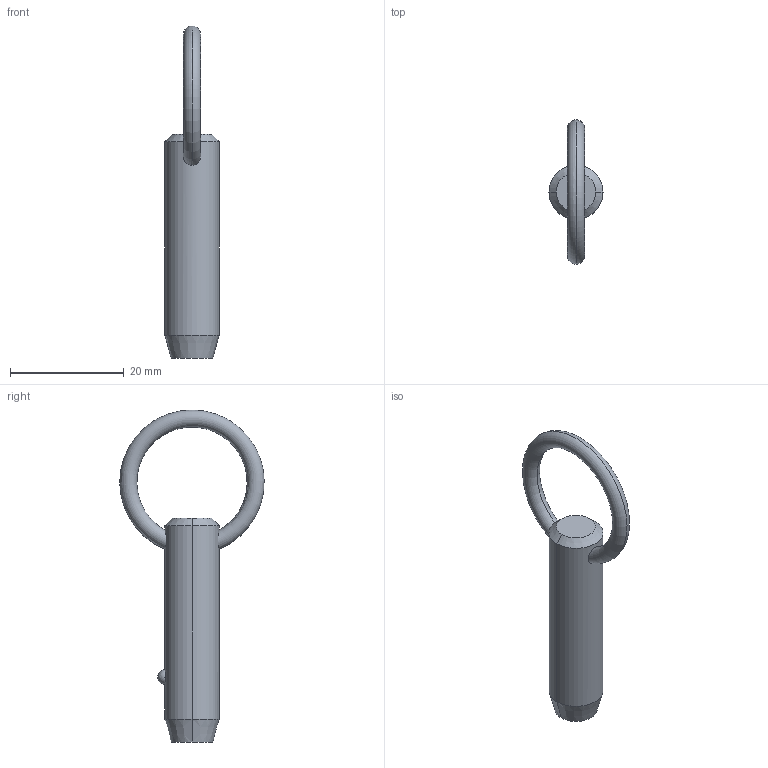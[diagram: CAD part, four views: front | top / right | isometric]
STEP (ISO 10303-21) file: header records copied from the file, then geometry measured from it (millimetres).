
FILE_DESCRIPTION (( 'STEP AP203' ), '1' );
FILE_NAME ('P1250.037-080.step', '2019-07-29T19:58:38', ( '' ), ( '' ), 'SwSTEP 2.0', 'SolidWorks 2017', '' );
FILE_SCHEMA (( 'CONFIG_CONTROL_DESIGN' ));
Length unit declared in the file: millimetre
Products named in the file (1): P1250.037-080
Bounding box: 9.52 x 25.39 x 58.4 mm (x, y, z)
Volume: 3152.1 mm3; surface area: 1819.1 mm2
Topology: 1 solids, 1 shells, 12 faces, 28 edges, 17 vertices
Faces by surface type: cone 4, torus 2, sphere 2, cylinder 2, plane 2
Entity records: 523 total; most frequent: CARTESIAN_POINT 190, DIRECTION 56, ORIENTED_EDGE 48, AXIS2_PLACEMENT_3D 25, EDGE_CURVE 24, VERTEX_POINT 15, EDGE_LOOP 15, CIRCLE 12
